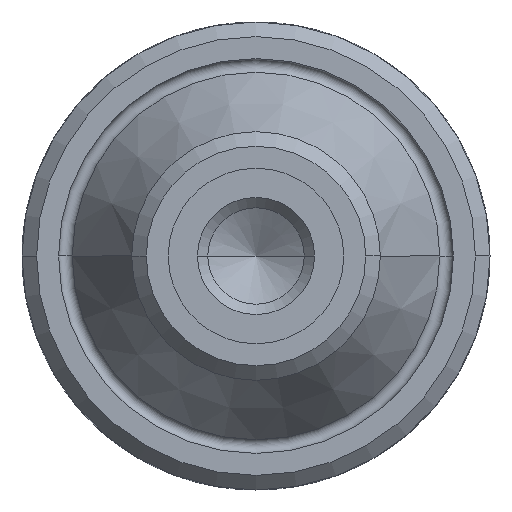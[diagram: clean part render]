
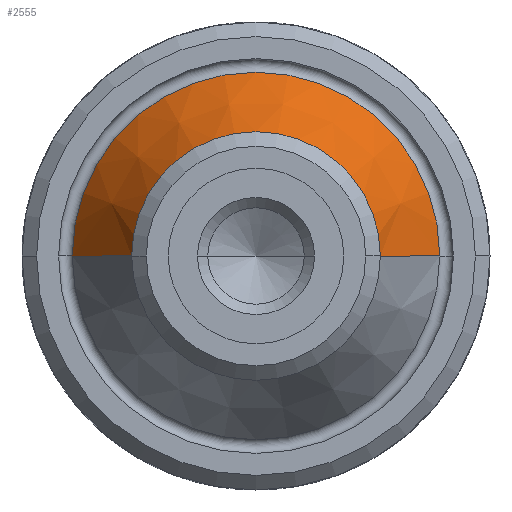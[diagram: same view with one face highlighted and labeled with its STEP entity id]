
A CAD part, left-side view. The second image highlights one B-rep face of the part: STEP entity #2555.
In plain terms, the highlighted conical face has half-angle 30 degrees and reference radius 12.567 mm.
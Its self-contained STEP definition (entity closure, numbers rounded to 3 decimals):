
#44 = CARTESIAN_POINT ( 'NONE',  ( 7.34, 0., 0. ) ) ;
#92 = DIRECTION ( 'NONE',  ( 0.866, 0.5, 0. ) ) ;
#268 = EDGE_CURVE ( 'NONE', #1994, #651, #674, .T. ) ;
#288 = LINE ( 'NONE', #1132, #1343 ) ;
#332 = CIRCLE ( 'NONE', #2574, 12.567 ) ;
#452 = CARTESIAN_POINT ( 'NONE',  ( 14.384, -12.567, 0. ) ) ;
#531 = DIRECTION ( 'NONE',  ( -1., 0., 0. ) ) ;
#542 = ORIENTED_EDGE ( 'NONE', *, *, #1303, .T. ) ;
#651 = VERTEX_POINT ( 'NONE', #1895 ) ;
#674 = LINE ( 'NONE', #2300, #960 ) ;
#722 = EDGE_CURVE ( 'NONE', #745, #1720, #288, .T. ) ;
#745 = VERTEX_POINT ( 'NONE', #2004 ) ;
#751 = EDGE_LOOP ( 'NONE', ( #1318, #2436, #542, #1846 ) ) ;
#890 = DIRECTION ( 'NONE',  ( 0., 1., 0. ) ) ;
#896 = DIRECTION ( 'NONE',  ( -1., 0., 0. ) ) ;
#960 = VECTOR ( 'NONE', #92, 1000. ) ;
#1020 = CIRCLE ( 'NONE', #2505, 8.5 ) ;
#1132 = CARTESIAN_POINT ( 'NONE',  ( 14.384, -12.567, 0. ) ) ;
#1303 = EDGE_CURVE ( 'NONE', #1720, #651, #332, .T. ) ;
#1318 = ORIENTED_EDGE ( 'NONE', *, *, #2396, .F. ) ;
#1321 = CARTESIAN_POINT ( 'NONE',  ( 14.384, 0., 0. ) ) ;
#1343 = VECTOR ( 'NONE', #1929, 1000. ) ;
#1515 = DIRECTION ( 'NONE',  ( 1., 0., 0. ) ) ;
#1610 = CARTESIAN_POINT ( 'NONE',  ( 7.34, 8.5, 0. ) ) ;
#1614 = CONICAL_SURFACE ( 'NONE', #2023, 12.567, 0.524 ) ;
#1720 = VERTEX_POINT ( 'NONE', #452 ) ;
#1804 = DIRECTION ( 'NONE',  ( 0., -1., 0. ) ) ;
#1846 = ORIENTED_EDGE ( 'NONE', *, *, #268, .F. ) ;
#1895 = CARTESIAN_POINT ( 'NONE',  ( 14.384, 12.567, 0. ) ) ;
#1929 = DIRECTION ( 'NONE',  ( 0.866, -0.5, 0. ) ) ;
#1994 = VERTEX_POINT ( 'NONE', #1610 ) ;
#2004 = CARTESIAN_POINT ( 'NONE',  ( 7.34, -8.5, 0. ) ) ;
#2023 = AXIS2_PLACEMENT_3D ( 'NONE', #1321, #1515, #890 ) ;
#2136 = CARTESIAN_POINT ( 'NONE',  ( 14.384, 0., 0. ) ) ;
#2288 = FACE_OUTER_BOUND ( 'NONE', #751, .T. ) ;
#2300 = CARTESIAN_POINT ( 'NONE',  ( 14.384, 12.567, 0. ) ) ;
#2334 = DIRECTION ( 'NONE',  ( 0., -1., 0. ) ) ;
#2396 = EDGE_CURVE ( 'NONE', #745, #1994, #1020, .T. ) ;
#2436 = ORIENTED_EDGE ( 'NONE', *, *, #722, .T. ) ;
#2505 = AXIS2_PLACEMENT_3D ( 'NONE', #44, #896, #2334 ) ;
#2555 = ADVANCED_FACE ( 'PLANAR_3', ( #2288 ), #1614, .T. ) ;
#2574 = AXIS2_PLACEMENT_3D ( 'NONE', #2136, #531, #1804 ) ;
